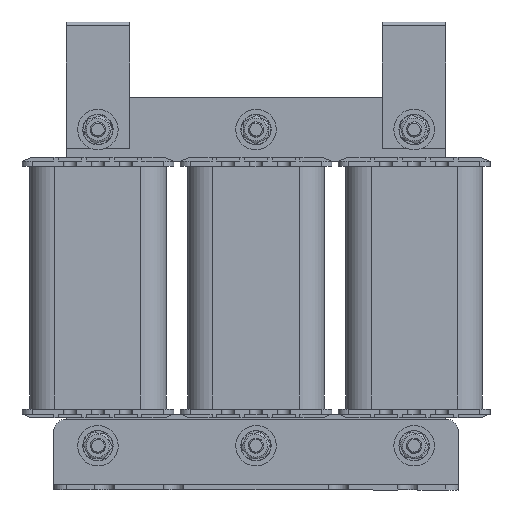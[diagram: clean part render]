
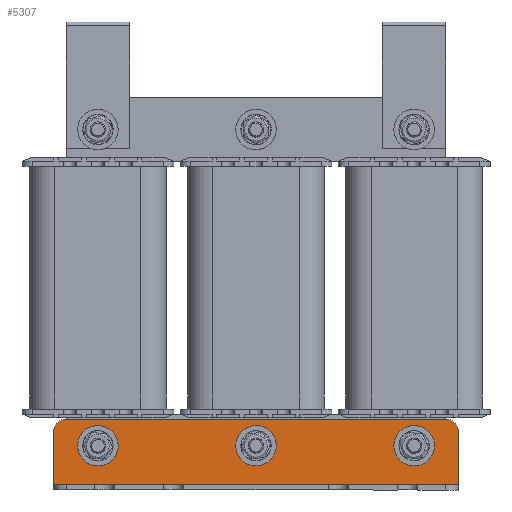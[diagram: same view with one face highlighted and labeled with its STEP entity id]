
A CAD part, front view. The second image highlights one B-rep face of the part: STEP entity #5307.
In plain terms, the highlighted planar face has unit normal (0, -1, 0) as drawn and (0, 1, 0) by its records, which use the part's own axes.
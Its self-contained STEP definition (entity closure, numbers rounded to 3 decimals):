
#194 = EDGE_LOOP ( 'NONE', ( #2498, #2573 ) ) ;
#203 = CARTESIAN_POINT ( 'NONE',  ( 62.5, -10.5, -14.25 ) ) ;
#668 = CIRCLE ( 'NONE', #5103, 3.25 ) ;
#734 = EDGE_LOOP ( 'NONE', ( #5648, #11542 ) ) ;
#877 = DIRECTION ( 'NONE',  ( 0., 1., 0. ) ) ;
#894 = ORIENTED_EDGE ( 'NONE', *, *, #14162, .T. ) ;
#1058 = ORIENTED_EDGE ( 'NONE', *, *, #8741, .F. ) ;
#1573 = FACE_BOUND ( 'NONE', #13269, .T. ) ;
#1606 = VERTEX_POINT ( 'NONE', #2523 ) ;
#1730 = LINE ( 'NONE', #5080, #12822 ) ;
#2095 = DIRECTION ( 'NONE',  ( 0., 0., 1. ) ) ;
#2133 = VERTEX_POINT ( 'NONE', #9960 ) ;
#2498 = ORIENTED_EDGE ( 'NONE', *, *, #8688, .F. ) ;
#2523 = CARTESIAN_POINT ( 'NONE',  ( 80., -10.5, -23. ) ) ;
#2573 = ORIENTED_EDGE ( 'NONE', *, *, #11247, .F. ) ;
#2829 = AXIS2_PLACEMENT_3D ( 'NONE', #12987, #9463, #13873 ) ;
#2909 = EDGE_CURVE ( 'NONE', #6724, #14133, #3731, .T. ) ;
#2956 = CARTESIAN_POINT ( 'NONE',  ( 75., -10.5, -28. ) ) ;
#3269 = VECTOR ( 'NONE', #4536, 1000. ) ;
#3562 = AXIS2_PLACEMENT_3D ( 'NONE', #7270, #9607, #13871 ) ;
#3680 = DIRECTION ( 'NONE',  ( 0., 1., 0. ) ) ;
#3731 = LINE ( 'NONE', #10105, #3269 ) ;
#3825 = DIRECTION ( 'NONE',  ( 0., 1., 0. ) ) ;
#4035 = CARTESIAN_POINT ( 'NONE',  ( -75., -10.5, -23. ) ) ;
#4136 = CARTESIAN_POINT ( 'NONE',  ( -75., -10.5, -28. ) ) ;
#4142 = AXIS2_PLACEMENT_3D ( 'NONE', #6475, #10946, #5388 ) ;
#4278 = ORIENTED_EDGE ( 'NONE', *, *, #6444, .F. ) ;
#4294 = ORIENTED_EDGE ( 'NONE', *, *, #2909, .F. ) ;
#4388 = AXIS2_PLACEMENT_3D ( 'NONE', #7196, #10428, #13801 ) ;
#4536 = DIRECTION ( 'NONE',  ( 0., 0., -1. ) ) ;
#4617 = VERTEX_POINT ( 'NONE', #203 ) ;
#4785 = VERTEX_POINT ( 'NONE', #4136 ) ;
#4900 = AXIS2_PLACEMENT_3D ( 'NONE', #4035, #877, #7383 ) ;
#4943 = PLANE ( 'NONE',  #3562 ) ;
#5080 = CARTESIAN_POINT ( 'NONE',  ( 80., -10.5, -28. ) ) ;
#5103 = AXIS2_PLACEMENT_3D ( 'NONE', #8414, #3825, #8277 ) ;
#5118 = CARTESIAN_POINT ( 'NONE',  ( 0., -10.5, -14.25 ) ) ;
#5290 = DIRECTION ( 'NONE',  ( 0., 0., 1. ) ) ;
#5292 = CARTESIAN_POINT ( 'NONE',  ( -62.5, -10.5, -20.75 ) ) ;
#5307 = ADVANCED_FACE ( 'NONE', ( #12985, #11884, #1573, #10491 ), #4943, .T. ) ;
#5388 = DIRECTION ( 'NONE',  ( 0., 0., 1. ) ) ;
#5648 = ORIENTED_EDGE ( 'NONE', *, *, #7647, .F. ) ;
#5651 = CARTESIAN_POINT ( 'NONE',  ( 62.5, -10.5, -20.75 ) ) ;
#5817 = CIRCLE ( 'NONE', #7901, 5. ) ;
#6045 = DIRECTION ( 'NONE',  ( 0., 1., 0. ) ) ;
#6444 = EDGE_CURVE ( 'NONE', #1606, #10646, #9846, .T. ) ;
#6475 = CARTESIAN_POINT ( 'NONE',  ( 62.5, -10.5, -17.5 ) ) ;
#6724 = VERTEX_POINT ( 'NONE', #6844 ) ;
#6731 = DIRECTION ( 'NONE',  ( -1., 0., 0. ) ) ;
#6798 = EDGE_CURVE ( 'NONE', #2133, #9769, #7958, .T. ) ;
#6823 = VERTEX_POINT ( 'NONE', #2956 ) ;
#6844 = CARTESIAN_POINT ( 'NONE',  ( -80., -10.5, -2. ) ) ;
#7035 = EDGE_LOOP ( 'NONE', ( #4278, #894, #1058, #11444, #4294, #13261 ) ) ;
#7108 = VERTEX_POINT ( 'NONE', #5292 ) ;
#7196 = CARTESIAN_POINT ( 'NONE',  ( -62.5, -10.5, -17.5 ) ) ;
#7270 = CARTESIAN_POINT ( 'NONE',  ( 0., -10.5, 0. ) ) ;
#7274 = EDGE_CURVE ( 'NONE', #9324, #4617, #7490, .T. ) ;
#7342 = DIRECTION ( 'NONE',  ( 0., 1., 0. ) ) ;
#7383 = DIRECTION ( 'NONE',  ( 0., 0., 1. ) ) ;
#7490 = CIRCLE ( 'NONE', #8648, 3.25 ) ;
#7647 = EDGE_CURVE ( 'NONE', #9769, #2133, #10947, .T. ) ;
#7832 = LINE ( 'NONE', #12312, #12873 ) ;
#7901 = AXIS2_PLACEMENT_3D ( 'NONE', #11614, #6045, #10435 ) ;
#7958 = CIRCLE ( 'NONE', #2829, 3.25 ) ;
#8277 = DIRECTION ( 'NONE',  ( 0., 0., 1. ) ) ;
#8337 = CARTESIAN_POINT ( 'NONE',  ( -62.5, -10.5, -14.25 ) ) ;
#8345 = EDGE_CURVE ( 'NONE', #4617, #9324, #12576, .T. ) ;
#8414 = CARTESIAN_POINT ( 'NONE',  ( -62.5, -10.5, -17.5 ) ) ;
#8516 = DIRECTION ( 'NONE',  ( 1., 0., 0. ) ) ;
#8648 = AXIS2_PLACEMENT_3D ( 'NONE', #12923, #7342, #5290 ) ;
#8688 = EDGE_CURVE ( 'NONE', #9531, #7108, #10934, .T. ) ;
#8741 = EDGE_CURVE ( 'NONE', #4785, #6823, #1730, .T. ) ;
#9324 = VERTEX_POINT ( 'NONE', #5651 ) ;
#9463 = DIRECTION ( 'NONE',  ( 0., 1., 0. ) ) ;
#9531 = VERTEX_POINT ( 'NONE', #8337 ) ;
#9607 = DIRECTION ( 'NONE',  ( 0., 1., 0. ) ) ;
#9769 = VERTEX_POINT ( 'NONE', #5118 ) ;
#9846 = LINE ( 'NONE', #13442, #11929 ) ;
#9960 = CARTESIAN_POINT ( 'NONE',  ( 0., -10.5, -20.75 ) ) ;
#10053 = CARTESIAN_POINT ( 'NONE',  ( 80., -10.5, -2. ) ) ;
#10105 = CARTESIAN_POINT ( 'NONE',  ( -80., -10.5, -28. ) ) ;
#10270 = CIRCLE ( 'NONE', #4900, 5. ) ;
#10368 = CARTESIAN_POINT ( 'NONE',  ( -80., -10.5, -23. ) ) ;
#10428 = DIRECTION ( 'NONE',  ( 0., 1., 0. ) ) ;
#10435 = DIRECTION ( 'NONE',  ( 0., 0., 1. ) ) ;
#10491 = FACE_OUTER_BOUND ( 'NONE', #7035, .T. ) ;
#10646 = VERTEX_POINT ( 'NONE', #10053 ) ;
#10934 = CIRCLE ( 'NONE', #4388, 3.25 ) ;
#10946 = DIRECTION ( 'NONE',  ( 0., 1., 0. ) ) ;
#10947 = CIRCLE ( 'NONE', #11423, 3.25 ) ;
#11030 = ORIENTED_EDGE ( 'NONE', *, *, #8345, .F. ) ;
#11091 = ORIENTED_EDGE ( 'NONE', *, *, #7274, .F. ) ;
#11247 = EDGE_CURVE ( 'NONE', #7108, #9531, #668, .T. ) ;
#11423 = AXIS2_PLACEMENT_3D ( 'NONE', #12698, #3680, #12762 ) ;
#11444 = ORIENTED_EDGE ( 'NONE', *, *, #13183, .T. ) ;
#11542 = ORIENTED_EDGE ( 'NONE', *, *, #6798, .F. ) ;
#11614 = CARTESIAN_POINT ( 'NONE',  ( 75., -10.5, -23. ) ) ;
#11884 = FACE_BOUND ( 'NONE', #734, .T. ) ;
#11929 = VECTOR ( 'NONE', #2095, 1000. ) ;
#12104 = EDGE_CURVE ( 'NONE', #10646, #6724, #7832, .T. ) ;
#12312 = CARTESIAN_POINT ( 'NONE',  ( -80., -10.5, -2. ) ) ;
#12576 = CIRCLE ( 'NONE', #4142, 3.25 ) ;
#12698 = CARTESIAN_POINT ( 'NONE',  ( 0., -10.5, -17.5 ) ) ;
#12762 = DIRECTION ( 'NONE',  ( 0., 0., 1. ) ) ;
#12822 = VECTOR ( 'NONE', #8516, 1000. ) ;
#12873 = VECTOR ( 'NONE', #6731, 1000. ) ;
#12923 = CARTESIAN_POINT ( 'NONE',  ( 62.5, -10.5, -17.5 ) ) ;
#12985 = FACE_BOUND ( 'NONE', #194, .T. ) ;
#12987 = CARTESIAN_POINT ( 'NONE',  ( 0., -10.5, -17.5 ) ) ;
#13183 = EDGE_CURVE ( 'NONE', #4785, #14133, #10270, .T. ) ;
#13261 = ORIENTED_EDGE ( 'NONE', *, *, #12104, .F. ) ;
#13269 = EDGE_LOOP ( 'NONE', ( #11030, #11091 ) ) ;
#13442 = CARTESIAN_POINT ( 'NONE',  ( 80., -10.5, -2. ) ) ;
#13801 = DIRECTION ( 'NONE',  ( 0., 0., 1. ) ) ;
#13871 = DIRECTION ( 'NONE',  ( 0., 0., 1. ) ) ;
#13873 = DIRECTION ( 'NONE',  ( 0., 0., 1. ) ) ;
#14133 = VERTEX_POINT ( 'NONE', #10368 ) ;
#14162 = EDGE_CURVE ( 'NONE', #1606, #6823, #5817, .T. ) ;
